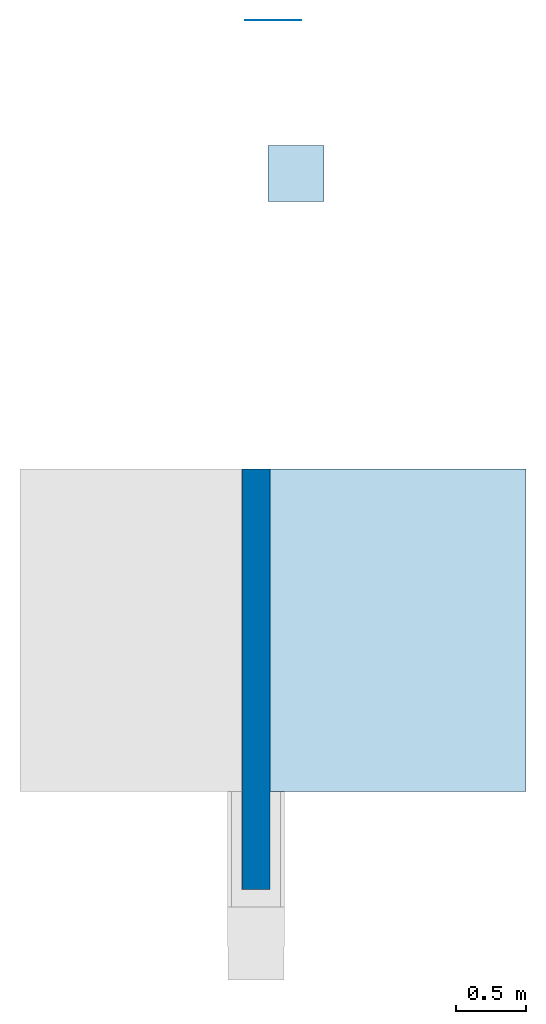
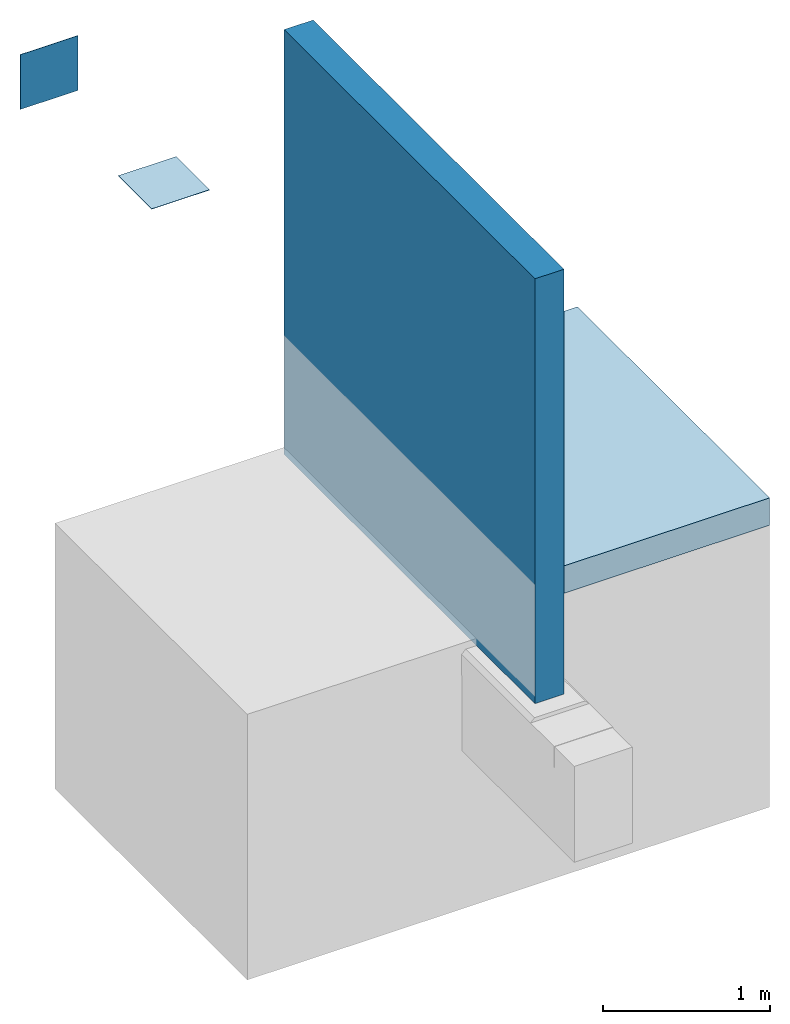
# One storey, part 1 of 2: 2 slabs, 2 walls.
"""IFC2X3 building model written with IfcOpenShell, lengths in metres."""

from ifc_helpers import new_model, entity, si_unit, converted_unit, derived_unit, direction, frame, frame_2d, origin, origin_2d_with_axis, place, context, subcontext, project, spatial, rectangle, extrude, material, layer, layer_set, layer_usage, type_object, element, save


model = new_model("IFC2X3")

# Units and contexts
model_context = context("Model", 3, precision=1e-05, world=origin(), true_north=direction((6.123031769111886e-17, 1.0)))
body_context = subcontext(model_context, "Body", "Model", "MODEL_VIEW")
ifc_project = project(units=[si_unit("LENGTHUNIT", "METRE"), si_unit("AREAUNIT", "SQUARE_METRE"), si_unit("VOLUMEUNIT", "CUBIC_METRE"), converted_unit("PLANEANGLEUNIT", "DEGREE", entity("IfcRatioMeasure", 0.017453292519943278), si_unit("PLANEANGLEUNIT", "RADIAN"), dimensions=[0, 0, 0, 0, 0, 0, 0]), si_unit("MASSUNIT", "GRAM", prefix="KILO"), derived_unit("MASSDENSITYUNIT", [(si_unit("MASSUNIT", "GRAM", prefix="KILO"), 1), (si_unit("LENGTHUNIT", "METRE"), -3)]), derived_unit("IONCONCENTRATIONUNIT", [(si_unit("MASSUNIT", "GRAM", prefix="KILO"), 1), (si_unit("LENGTHUNIT", "METRE"), -3)]), derived_unit("MOMENTOFINERTIAUNIT", [(si_unit("LENGTHUNIT", "METRE"), 4)]), si_unit("TIMEUNIT", "SECOND"), si_unit("FREQUENCYUNIT", "HERTZ"), si_unit("THERMODYNAMICTEMPERATUREUNIT", "DEGREE_CELSIUS"), derived_unit("THERMALTRANSMITTANCEUNIT", [(si_unit("MASSUNIT", "GRAM", prefix="KILO"), 1), (si_unit("THERMODYNAMICTEMPERATUREUNIT", "KELVIN"), -1), (si_unit("TIMEUNIT", "SECOND"), -3)]), derived_unit("THERMALCONDUCTANCEUNIT", [(si_unit("MASSUNIT", "GRAM", prefix="KILO"), 1), (si_unit("THERMODYNAMICTEMPERATUREUNIT", "KELVIN"), -1), (si_unit("TIMEUNIT", "SECOND"), -3), (si_unit("LENGTHUNIT", "METRE"), 1)]), derived_unit("VOLUMETRICFLOWRATEUNIT", [(si_unit("LENGTHUNIT", "METRE"), 3), (si_unit("TIMEUNIT", "SECOND"), -1)]), derived_unit("MASSFLOWRATEUNIT", [(si_unit("MASSUNIT", "GRAM", prefix="KILO"), 1), (si_unit("TIMEUNIT", "SECOND"), -1)]), derived_unit("ROTATIONALFREQUENCYUNIT", [(si_unit("TIMEUNIT", "SECOND"), -1)]), si_unit("ELECTRICCURRENTUNIT", "AMPERE"), si_unit("ELECTRICVOLTAGEUNIT", "VOLT"), si_unit("POWERUNIT", "WATT"), si_unit("FORCEUNIT", "NEWTON", prefix="KILO"), si_unit("ILLUMINANCEUNIT", "LUX"), si_unit("LUMINOUSFLUXUNIT", "LUMEN"), si_unit("LUMINOUSINTENSITYUNIT", "CANDELA"), derived_unit("USERDEFINED", [(si_unit("MASSUNIT", "GRAM", prefix="KILO"), -1), (si_unit("LENGTHUNIT", "METRE"), -2), (si_unit("TIMEUNIT", "SECOND"), 3), (si_unit("LUMINOUSFLUXUNIT", "LUMEN"), 1)]), derived_unit("USERDEFINED", [(si_unit("MASSUNIT", "GRAM", prefix="KILO"), 1), (si_unit("TIMEUNIT", "SECOND"), -3), (si_unit("LENGTHUNIT", "METRE"), 3), (si_unit("ELECTRICCURRENTUNIT", "AMPERE"), -2)]), derived_unit("SOUNDPOWERUNIT", [(si_unit("MASSUNIT", "GRAM", prefix="KILO"), 1), (si_unit("TIMEUNIT", "SECOND"), -3), (si_unit("LENGTHUNIT", "METRE"), 2)]), derived_unit("SOUNDPRESSUREUNIT", [(si_unit("MASSUNIT", "GRAM", prefix="KILO"), 1), (si_unit("LENGTHUNIT", "METRE"), -1), (si_unit("TIMEUNIT", "SECOND"), -2)]), derived_unit("LINEARVELOCITYUNIT", [(si_unit("LENGTHUNIT", "METRE"), 1), (si_unit("TIMEUNIT", "SECOND"), -1)]), si_unit("PRESSUREUNIT", "PASCAL"), derived_unit("USERDEFINED", [(si_unit("MASSUNIT", "GRAM", prefix="KILO"), 1), (si_unit("LENGTHUNIT", "METRE"), -2), (si_unit("TIMEUNIT", "SECOND"), -2)]), derived_unit("LINEARFORCEUNIT", [(si_unit("MASSUNIT", "GRAM", prefix="KILO"), 1), (si_unit("TIMEUNIT", "SECOND"), -2)]), derived_unit("PLANARFORCEUNIT", [(si_unit("MASSUNIT", "GRAM", prefix="KILO"), 1), (si_unit("LENGTHUNIT", "METRE"), -1), (si_unit("TIMEUNIT", "SECOND"), -2)]), derived_unit("SPECIFICHEATCAPACITYUNIT", [(si_unit("THERMODYNAMICTEMPERATUREUNIT", "KELVIN"), -1), (si_unit("LENGTHUNIT", "METRE"), 2), (si_unit("TIMEUNIT", "SECOND"), -2)]), derived_unit("HEATINGVALUEUNIT", [(si_unit("LENGTHUNIT", "METRE"), 2), (si_unit("TIMEUNIT", "SECOND"), -2)]), derived_unit("VAPORPERMEABILITYUNIT", [(si_unit("LENGTHUNIT", "METRE"), -1), (si_unit("TIMEUNIT", "SECOND"), 1)]), derived_unit("DYNAMICVISCOSITYUNIT", [(si_unit("MASSUNIT", "GRAM", prefix="KILO"), 1), (si_unit("TIMEUNIT", "SECOND"), -1), (si_unit("LENGTHUNIT", "METRE"), -1)]), derived_unit("THERMALEXPANSIONCOEFFICIENTUNIT", [(si_unit("THERMODYNAMICTEMPERATUREUNIT", "KELVIN"), -1)]), derived_unit("MODULUSOFELASTICITYUNIT", [(si_unit("MASSUNIT", "GRAM", prefix="KILO"), 1), (si_unit("LENGTHUNIT", "METRE"), -1), (si_unit("TIMEUNIT", "SECOND"), -2)]), derived_unit("ISOTHERMALMOISTURECAPACITYUNIT", [(si_unit("LENGTHUNIT", "METRE"), 3), (si_unit("MASSUNIT", "GRAM", prefix="KILO"), -1)]), derived_unit("MOISTUREDIFFUSIVITYUNIT", [(si_unit("TIMEUNIT", "SECOND"), -1), (si_unit("LENGTHUNIT", "METRE"), 2)])], contexts=[model_context])

# Site, building, storey
site_placement = place(None, origin())
site = spatial("IfcSite", under=ifc_project, at=site_placement, Name="Default", CompositionType="ELEMENT")
building_placement = place(site_placement, origin())
building = spatial("IfcBuilding", under=site, at=building_placement, CompositionType="ELEMENT")
storey_placement = place(building_placement, frame((0.0, 0.0, -0.0025237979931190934)))
storey = spatial("IfcBuildingStorey", under=building, at=storey_placement, Name="ARQ Térreo", CompositionType="ELEMENT", Elevation=-0.0025237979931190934)

# Slabs
ifc_material_1 = material(Name="#concreto")
ifc_layer_1 = layer(ifc_material_1, 0.2)
ifc_layer_set_1 = layer_set([ifc_layer_1], Name="Piso:Piso:LAJE CONCRETO")
ifc_layer_usage_1 = layer_usage(ifc_layer_set_1, "AXIS3", "POSITIVE", 0.0)
slab_type_1 = type_object("IfcSlabType", Name="Piso:Piso:LAJE CONCRETO", PredefinedType="FLOOR", material=ifc_layer_set_1)
slab_1_placement = place(storey_placement, origin())
element("IfcSlab", 1, at=slab_1_placement, inside=storey, type_object=slab_type_1, material=ifc_layer_usage_1, Name="Piso:Piso:LAJE CONCRETO", ObjectType="Piso:Piso:LAJE CONCRETO", PredefinedType="FLOOR", context=body_context, shape_type="SweptSolid", body=[
    extrude(rectangle(XDim=2.3000000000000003, YDim=1.825000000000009, at=origin_2d_with_axis()), frame((0.5855295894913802, -1.0041299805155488, -0.2), z_axis=(0.0, 0.0, -1.0), x_axis=(0.0, 1.0, 0.0)), (0.0, 0.0, 1.0), 0.2),
])
ifc_material_2 = material(Name="#Viapol Baldrame")
ifc_layer_2 = layer(ifc_material_2, 0.003)
ifc_layer_set_2 = layer_set([ifc_layer_2], Name="Piso:IMPH_VP BALDRAME")
ifc_layer_usage_2 = layer_usage(ifc_layer_set_2, "AXIS3", "POSITIVE", 0.0)
slab_type_2 = type_object("IfcSlabType", Name="Piso:IMPH_VP BALDRAME", PredefinedType="FLOOR", material=ifc_layer_set_2)
slab_2_placement = place(storey_placement, origin())
element("IfcSlab", 2, at=slab_2_placement, inside=storey, type_object=slab_type_2, material=ifc_layer_usage_2, Name="Piso:IMPH_VP BALDRAME", ObjectType="Piso:IMPH_VP BALDRAME", PredefinedType="FLOOR", context=body_context, shape_type="SweptSolid", body=[
    extrude(rectangle(XDim=0.4, YDim=0.4, at=origin_2d_with_axis()), frame((-0.13947178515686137, 2.254124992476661, 0.0), z_axis=(0.0, 0.0, -1.0), x_axis=(0.0, 1.0, 0.0)), (0.0, 0.0, 1.0), 0.003),
])

# Walls
ifc_material_3 = material(Name="Tijolo, Comum")
ifc_layer_3 = layer(ifc_material_3, 0.2)
ifc_layer_set_3 = layer_set([ifc_layer_3], Name="Parede básica:Alvenaria - 200 mm")
ifc_layer_usage_3 = layer_usage(ifc_layer_set_3, "AXIS2", "NEGATIVE", 0.1)
wall_type_1 = type_object("IfcWallType", Name="Parede básica:Alvenaria - 200 mm", PredefinedType="STANDARD", material=ifc_layer_set_3)
wall_1_placement = place(storey_placement, frame((-0.4269704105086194, 0.14587001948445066, -0.57), z_axis=(0.0, 0.0, 1.0), x_axis=(0.0, -1.0, 0.0)))
element("IfcWallStandardCase", 3, at=wall_1_placement, inside=storey, type_object=wall_type_1, material=ifc_layer_usage_3, Name="Parede básica:Parede Concreto", ObjectType="Parede básica:Parede Concreto", context=body_context, shape_type="SweptSolid", body=[
    extrude(rectangle(XDim=2.9999999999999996, YDim=0.2, at=frame_2d((1.4999999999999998, 0.0), x_axis=(-1.0, 0.0))), origin(), (0.0, 0.0, 1.0), 3.101854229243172),
])
ifc_layer_4 = layer(ifc_material_2, 0.003)
ifc_layer_set_4 = layer_set([ifc_layer_4], Name="Parede básica:IMPV_VP BALDRAME")
ifc_layer_usage_4 = layer_usage(ifc_layer_set_4, "AXIS2", "POSITIVE", -0.0015)
wall_type_2 = type_object("IfcWallType", Name="Parede básica:IMPV_VP BALDRAME", PredefinedType="STANDARD", material=ifc_layer_set_4)
wall_2_placement = place(storey_placement, frame((-0.5019704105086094, 3.345870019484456, 0.0)))
element("IfcWallStandardCase", 4, at=wall_2_placement, inside=storey, type_object=wall_type_2, material=ifc_layer_usage_4, Name="Parede básica:IMPV_VP1000", ObjectType="Parede básica:IMPV_VP1000", context=body_context, shape_type="SweptSolid", body=[
    extrude(rectangle(XDim=0.4, YDim=0.003000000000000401, at=frame_2d((0.2, -6.884683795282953e-17), x_axis=(-1.0, 0.0))), origin(), (0.0, 0.0, 1.0), 0.4),
])

save(model, "model.ifc")
